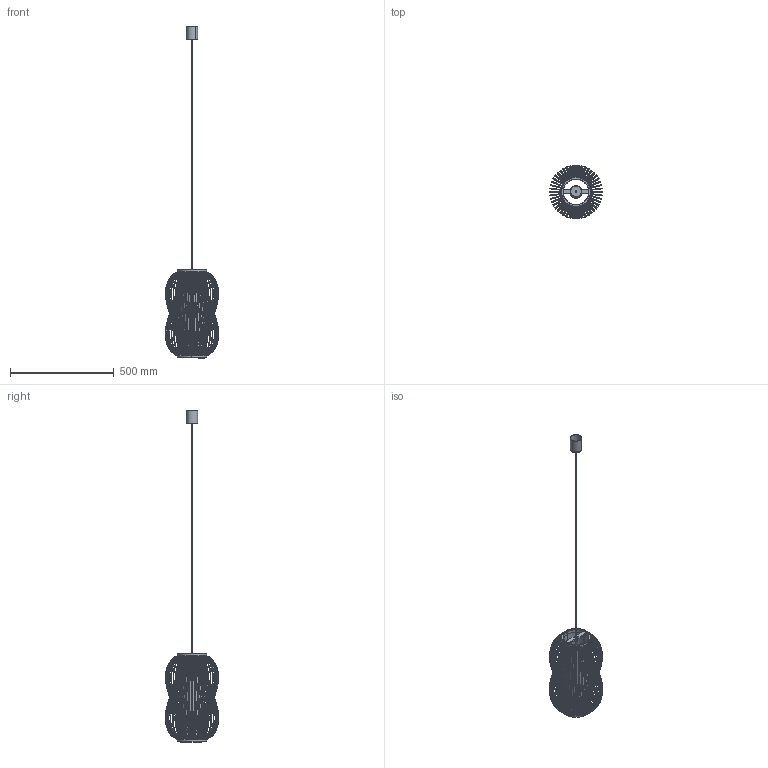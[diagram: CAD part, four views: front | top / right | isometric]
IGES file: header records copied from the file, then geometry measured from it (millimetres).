
Start section: SolidWorks IGES file using analytic representation for surfaces
Global section: file name: Z:\PRODUKT\Modele_3D_WWW\PUKET\PUKET M\PUKET-M-11161\PUKET M z³ozenie.IGS; native system: SolidWorks 2023; preprocessor: SolidWorks 2023; author: anna.bielnik; date: 240130.105938; units: millimetre
Bounding box: 257.84 x 257.31 x 1600.27 mm (x, y, z)
Surface area: 857149.5 mm2 (no closed solid volume)
Topology: 0 solids, 0 shells, 485 faces, 20212 edges, 20210 vertices
Faces by surface type: bspline 447, revolution 38
